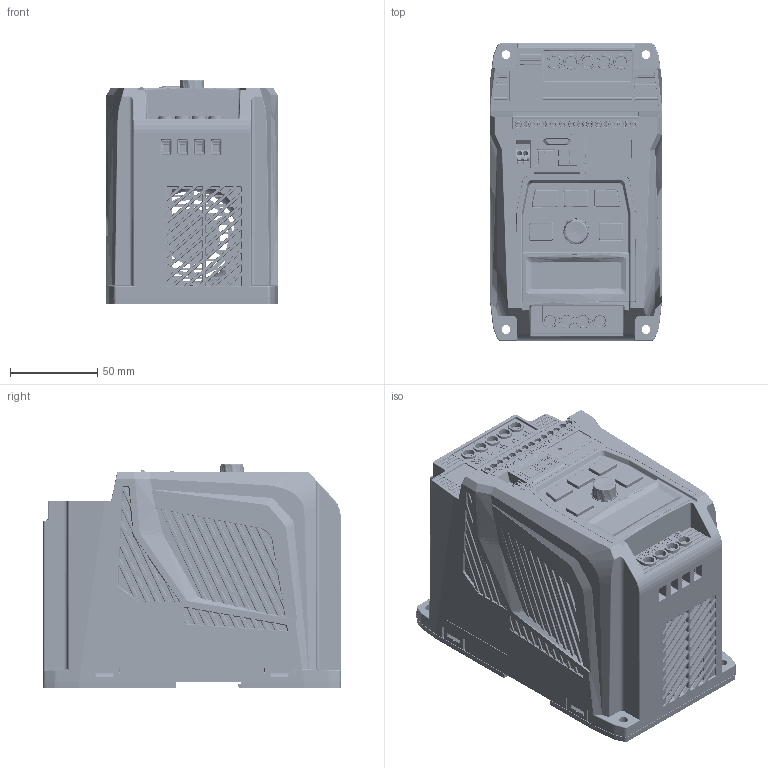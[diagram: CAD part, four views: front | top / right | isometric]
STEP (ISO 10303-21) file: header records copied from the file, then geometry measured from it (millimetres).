
FILE_DESCRIPTION(('STEP AP203'), '1');
FILE_NAME('NCI 4.0-7.5 4B', '2025-01-13T13:07:32', ('admin'), (''), 'C3D Converter', 'C3D Toolkit', '');
FILE_SCHEMA(('CONFIG_CONTROL_DESIGN'));
Length unit declared in the file: millimetre
Products named in the file (37): CA100-5R5A_ASM; CA100-4R0A-SR-01; CA100-5R5A-SR-01; QJ_ASM; 6025; PCB_ASM; QDB_ASM; QDB; DRI; EU5-03-952_ASM; ASSEM1_ASM; 6912184100XX_MASS; 6912184100XX_PIN; 6912184100XX_VIS; 691218410003; 2R2-CM_ASM; 2R2-CM; EU1_5-14-5_08-00_1_; LED; DWQ_2; ANJIAN; BM; 485; DRB_ASM; DRB; DR; CA100-5R5A-SJ_ASM; CA100-5R5A-SJ-01; CA100-5R5A-SJ-02; CA100-5R5A-SJ-01-; JIANPAN99_ASM_ASM; JIANPAN99_ASM_17_ASM; CA100-2R2A-SJ-05_45; CA100-2R2A-SJ-06_23; CA100-2R2A-SJ-03_22; CA100-2R2A-SJ-04; AA
Assembly tree (49 placements, depth 6):
  CA100-5R5A_ASM
    CA100-4R0A-SR-01
    CA100-5R5A-SR-01
    QJ_ASM
      6025
    PCB_ASM
      QDB_ASM
        QDB
        DRI
        EU5-03-952_ASM  x9
          ASSEM1_ASM
            6912184100XX_MASS
            6912184100XX_PIN
            6912184100XX_VIS
            691218410003
      2R2-CM_ASM
        2R2-CM
        EU1_5-14-5_08-00_1_
        LED
        DWQ_2
        ANJIAN  x5
        BM  x2
        485
      DRB_ASM
        DRB
        DR
    CA100-5R5A-SJ_ASM
      CA100-5R5A-SJ-01
      CA100-5R5A-SJ-02
      CA100-5R5A-SJ-01-
    JIANPAN99_ASM_ASM
      JIANPAN99_ASM_17_ASM
        CA100-2R2A-SJ-05_45
        CA100-2R2A-SJ-06_23
        CA100-2R2A-SJ-03_22
    CA100-2R2A-SJ-04
    AA
Bounding box: 98 x 170 x 127.99 mm (x, y, z)
Volume: 907848.4 mm3; surface area: 742394.8 mm2
Topology: 75 solids, 90 shells, 9920 faces, 25914 edges, 16508 vertices
Faces by surface type: plane 5665, cylinder 2378, bspline 1166, cone 280, torus 225, extrusion 154, sphere 52
Full cylindrical faces by diameter (mm): 0.445 x1, 0.5 x14, 0.635 x1, 0.762 x4, 0.8 x19, 1 x30, 1.1 x4, 1.27 x2, 1.3 x1, 1.4 x16, 1.5 x16, 2 x9, 2.3 x2, 2.5 x3, 2.54 x5, 2.75 x2, 3 x6, 3.1 x14, 3.2 x27, 3.5 x13, 3.6 x1, 4 x10, 4.1 x36, 4.2 x4, 5 x12, 5.2 x18, 5.5 x4, 6 x1, 6.5 x4, 6.8 x1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
Entity records: 439822 total; most frequent: CARTESIAN_POINT 173522, ORIENTED_EDGE 44324, DIRECTION 33628, EDGE_CURVE 22165, VERTEX_POINT 14385, VECTOR 13852, LINE 13698, AXIS2_PLACEMENT_3D 9888
